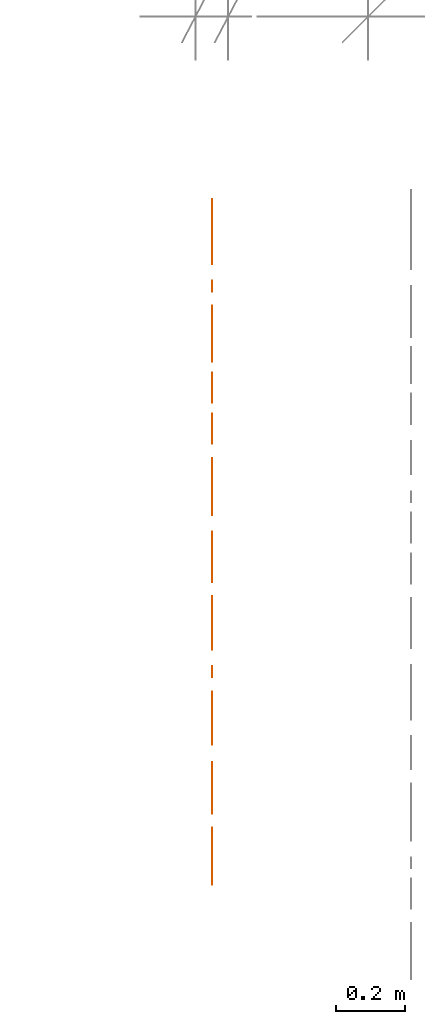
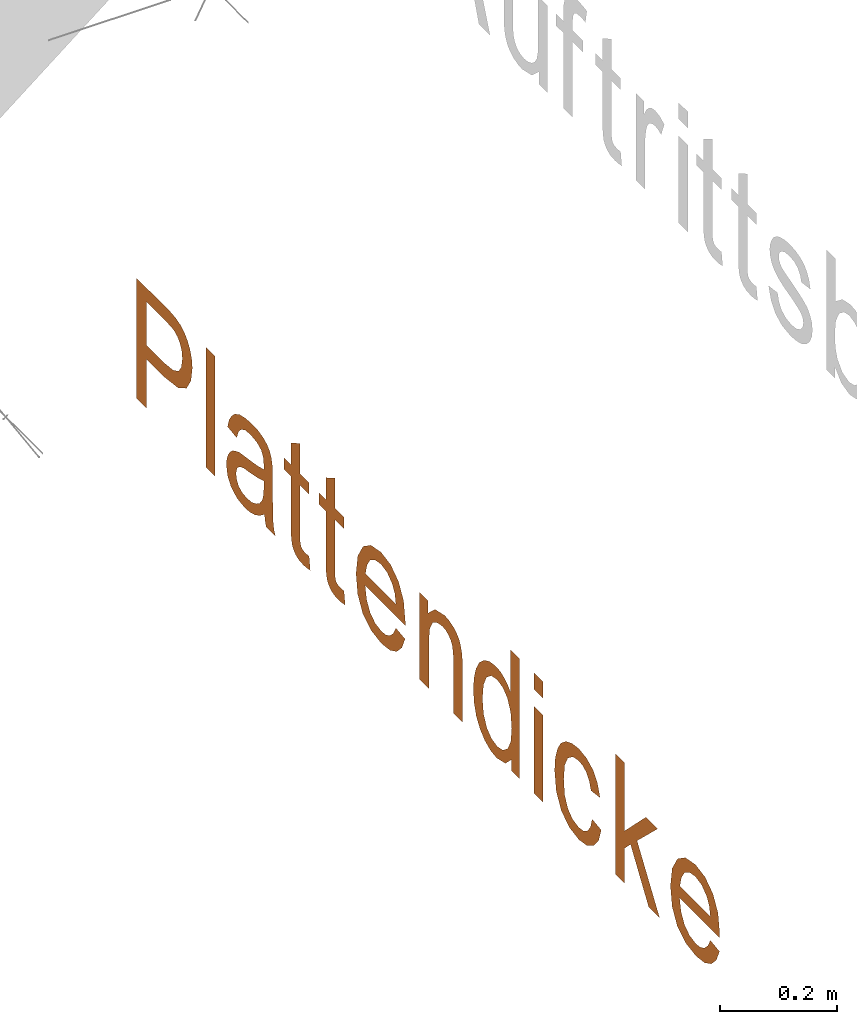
# One storey, part 3 of 5: 1 proxy, 1 element without a shape of its own.
"""IFC4 building model written with IfcOpenShell, lengths in metres."""

from ifc_helpers import new_model, entity, si_unit, converted_unit, derived_unit, frame, origin, origin_with_axes, place, context, subcontext, project, spatial, open_shell, surface_model, source, transform, mapped, element, aggregate, save


model = new_model("IFC4")

# Units and contexts
model_context = context("Model", 3, precision=1e-05, world=origin())
body_context = subcontext(model_context, "Body", "Model", "MODEL_VIEW")
ifc_project = project(units=[si_unit("LENGTHUNIT", "METRE"), si_unit("AREAUNIT", "SQUARE_METRE"), si_unit("VOLUMEUNIT", "CUBIC_METRE"), si_unit("MASSUNIT", "GRAM", prefix="KILO"), converted_unit("PLANEANGLEUNIT", "DEGREE", entity("IfcPlaneAngleMeasure", 0.0174532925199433), si_unit("PLANEANGLEUNIT", "RADIAN"), dimensions=[0, 0, 0, 0, 0, 0, 0]), derived_unit("THERMALTRANSMITTANCEUNIT", [(si_unit("POWERUNIT", "WATT"), 1), (si_unit("THERMODYNAMICTEMPERATUREUNIT", "KELVIN"), -1), (si_unit("LENGTHUNIT", "METRE"), -2)]), derived_unit("VOLUMETRICFLOWRATEUNIT", [(si_unit("LENGTHUNIT", "METRE"), 3), (converted_unit("TIMEUNIT", "hour", entity("IfcTimeMeasure", 3600.0), si_unit("TIMEUNIT", "SECOND"), dimensions=[0, 0, 1, 0, 0, 0, 0]), -1), (si_unit("LENGTHUNIT", "METRE"), -1)])], contexts=[model_context])

# Site, building, storey
site_placement = place(None, origin())
site = spatial("IfcSite", under=ifc_project, at=site_placement, Name="Liegenschaft", CompositionType="ELEMENT")
building_placement = place(site_placement, origin())
building = spatial("IfcBuilding", under=site, at=building_placement, Name="Gebäude", CompositionType="ELEMENT")
storey_placement = place(building_placement, origin())
storey = spatial("IfcBuildingStorey", under=building, at=storey_placement, Name="Geschoss 02", CompositionType="ELEMENT", Elevation=0.0)

# Assembly, proxy
assembly_placement = place(storey_placement, origin())
assembly = element("IfcElementAssembly", 1, at=assembly_placement, inside=storey, Name="SpatialDim_Group", PredefinedType="NOTDEFINED")
shared_shape = source(origin_with_axes(), body_context, "Body", "SurfaceModel", [
    surface_model("IfcShellBasedSurfaceModel", [(0.298675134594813, 1.988, 0.0), (0.298675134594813, 1.955, 0.0), (0.400675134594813, 1.955, 0.0), (0.400675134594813, 1.891, 0.0), (0.406425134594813, 1.845875, 0.0), (0.422675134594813, 1.818, 0.0), (0.447425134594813, 1.80275, 0.0), (0.476675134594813, 1.798, 0.0), (0.494425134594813, 1.800125, 0.0), (0.510675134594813, 1.806, 0.0), (0.524175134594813, 1.814875, 0.0), (0.534675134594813, 1.826, 0.0), (0.542175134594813, 1.8395, 0.0), (0.546675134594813, 1.856, 0.0), (0.548425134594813, 1.872375, 0.0), (0.548675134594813, 1.894, 0.0), (0.548675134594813, 1.988, 0.0), (0.432675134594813, 1.863875, 0.0), (0.429675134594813, 1.891, 0.0), (0.429675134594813, 1.955, 0.0), (0.519675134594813, 1.955, 0.0), (0.519675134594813, 1.891, 0.0), (0.519050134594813, 1.87225, 0.0), (0.517675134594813, 1.861, 0.0), (0.511675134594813, 1.849, 0.0), (0.502675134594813, 1.84, 0.0), (0.489925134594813, 1.83375, 0.0), (0.475675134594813, 1.832, 0.0), (0.456050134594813, 1.8355, 0.0), (0.441675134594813, 1.845, 0.0)], [open_shell([[[0, 1, 2, 3, 4, 5, 6, 7, 8, 9, 10, 11, 12, 13, 14, 15, 16], [17, 18, 19, 20, 21, 22, 23, 24, 25, 26, 27, 28, 29]]], orient=[[False, False]])]),
    surface_model("IfcShellBasedSurfaceModel", [(0.298675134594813, 1.751, 0.0), (0.298675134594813, 1.72, 0.0), (0.548675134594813, 1.72, 0.0), (0.548675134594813, 1.751, 0.0)], [open_shell([[[0, 1, 2, 3]]], orient=[[False]])]),
    surface_model("IfcShellBasedSurfaceModel", [(0.309050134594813, 1.54975, 0.0), (0.298675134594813, 1.546, 0.0), (0.298675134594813, 1.515, 0.0), (0.309300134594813, 1.519625, 0.0), (0.320675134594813, 1.522, 0.0), (0.340175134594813, 1.52375, 0.0), (0.374675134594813, 1.524, 0.0), (0.415675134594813, 1.524, 0.0), (0.433050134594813, 1.524625, 0.0), (0.443675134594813, 1.526, 0.0), (0.455675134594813, 1.52975, 0.0), (0.464675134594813, 1.535, 0.0), (0.472425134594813, 1.544125, 0.0), (0.478675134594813, 1.557, 0.0), (0.482675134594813, 1.574125, 0.0), (0.483675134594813, 1.595, 0.0), (0.482175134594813, 1.6175, 0.0), (0.477675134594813, 1.637, 0.0), (0.469300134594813, 1.65275, 0.0), (0.458675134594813, 1.664, 0.0), (0.444675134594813, 1.672875, 0.0), (0.427675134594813, 1.678, 0.0), (0.423675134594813, 1.647, 0.0), (0.440925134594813, 1.640125, 0.0), (0.450675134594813, 1.631, 0.0), (0.456925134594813, 1.617625, 0.0), (0.458675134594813, 1.599, 0.0), (0.455925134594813, 1.578, 0.0), (0.448675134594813, 1.563, 0.0), (0.437425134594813, 1.55625, 0.0), (0.421675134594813, 1.554, 0.0), (0.418425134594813, 1.554, 0.0), (0.413675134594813, 1.554, 0.0), (0.407800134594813, 1.577125, 0.0), (0.402675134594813, 1.61, 0.0), (0.400300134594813, 1.62575, 0.0), (0.398675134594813, 1.637, 0.0), (0.394050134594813, 1.649625, 0.0), (0.388675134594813, 1.66, 0.0), (0.380425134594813, 1.669125, 0.0), (0.370675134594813, 1.676, 0.0), (0.358675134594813, 1.6805, 0.0), (0.346675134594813, 1.682, 0.0), (0.325550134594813, 1.67775, 0.0), (0.309675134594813, 1.666, 0.0), (0.298425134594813, 1.6455, 0.0), (0.294675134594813, 1.619, 0.0), (0.296175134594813, 1.60125, 0.0), (0.300675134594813, 1.585, 0.0), (0.308925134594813, 1.5685, 0.0), (0.321675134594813, 1.552, 0.0), (0.383675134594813, 1.575, 0.0), (0.389675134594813, 1.554, 0.0), (0.378675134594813, 1.554, 0.0), (0.360175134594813, 1.555375, 0.0), (0.347675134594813, 1.559, 0.0), (0.334925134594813, 1.568, 0.0), (0.326675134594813, 1.58, 0.0), (0.320425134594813, 1.59525, 0.0), (0.318675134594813, 1.612, 0.0), (0.320800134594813, 1.62825, 0.0), (0.326675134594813, 1.64, 0.0), (0.336425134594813, 1.64675, 0.0), (0.347675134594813, 1.649, 0.0), (0.355425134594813, 1.64775, 0.0), (0.361675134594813, 1.645, 0.0), (0.367800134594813, 1.638875, 0.0), (0.371675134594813, 1.632, 0.0), (0.375425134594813, 1.62075, 0.0), (0.377675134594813, 1.605, 0.0)], [open_shell([[[0, 1, 2, 3, 4, 5, 6, 7, 8, 9, 10, 11, 12, 13, 14, 15, 16, 17, 18, 19, 20, 21, 22, 23, 24, 25, 26, 27, 28, 29, 30, 31, 32, 33, 34, 35, 36, 37, 38, 39, 40, 41, 42, 43, 44, 45, 46, 47, 48, 49, 50], [51, 52, 53, 54, 55, 56, 57, 58, 59, 60, 61, 62, 63, 64, 65, 66, 67, 68, 69]]], orient=[[False, False]])]),
    surface_model("IfcShellBasedSurfaceModel", [(0.326675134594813, 1.4, 0.0), (0.325800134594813, 1.40775, 0.0), (0.325675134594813, 1.414, 0.0), (0.326300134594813, 1.41975, 0.0), (0.327675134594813, 1.424, 0.0), (0.330675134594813, 1.427625, 0.0), (0.333675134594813, 1.429, 0.0), (0.340300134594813, 1.43075, 0.0), (0.350675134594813, 1.431, 0.0), (0.455675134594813, 1.431, 0.0), (0.455675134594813, 1.4, 0.0), (0.479675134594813, 1.4, 0.0), (0.479675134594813, 1.431, 0.0), (0.542675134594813, 1.431, 0.0), (0.524675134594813, 1.462, 0.0), (0.479675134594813, 1.462, 0.0), (0.479675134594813, 1.485, 0.0), (0.455675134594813, 1.485, 0.0), (0.455675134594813, 1.462, 0.0), (0.351675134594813, 1.462, 0.0), (0.329175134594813, 1.46075, 0.0), (0.315675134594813, 1.458, 0.0), (0.307925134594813, 1.452625, 0.0), (0.301675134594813, 1.445, 0.0), (0.297675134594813, 1.433875, 0.0), (0.296675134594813, 1.419, 0.0), (0.297425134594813, 1.407875, 0.0), (0.299675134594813, 1.396, 0.0)], [open_shell([[[0, 1, 2, 3, 4, 5, 6, 7, 8, 9, 10, 11, 12, 13, 14, 15, 16, 17, 18, 19, 20, 21, 22, 23, 24, 25, 26, 27]]], orient=[[False]])]),
    surface_model("IfcShellBasedSurfaceModel", [(0.326675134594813, 1.281, 0.0), (0.325800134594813, 1.28875, 0.0), (0.325675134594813, 1.295, 0.0), (0.326300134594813, 1.30075, 0.0), (0.327675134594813, 1.305, 0.0), (0.330675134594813, 1.308625, 0.0), (0.333675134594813, 1.31, 0.0), (0.340300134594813, 1.31175, 0.0), (0.350675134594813, 1.312, 0.0), (0.455675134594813, 1.312, 0.0), (0.455675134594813, 1.281, 0.0), (0.479675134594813, 1.281, 0.0), (0.479675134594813, 1.312, 0.0), (0.542675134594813, 1.312, 0.0), (0.524675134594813, 1.343, 0.0), (0.479675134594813, 1.343, 0.0), (0.479675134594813, 1.366, 0.0), (0.455675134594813, 1.366, 0.0), (0.455675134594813, 1.343, 0.0), (0.351675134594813, 1.343, 0.0), (0.329175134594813, 1.34175, 0.0), (0.315675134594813, 1.339, 0.0), (0.307925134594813, 1.333625, 0.0), (0.301675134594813, 1.326, 0.0), (0.297675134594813, 1.314875, 0.0), (0.296675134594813, 1.3, 0.0), (0.297425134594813, 1.288875, 0.0), (0.299675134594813, 1.277, 0.0)], [open_shell([[[0, 1, 2, 3, 4, 5, 6, 7, 8, 9, 10, 11, 12, 13, 14, 15, 16, 17, 18, 19, 20, 21, 22, 23, 24, 25, 26, 27]]], orient=[[False]])]),
    surface_model("IfcShellBasedSurfaceModel", [(0.356675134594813, 1.104, 0.0), (0.340050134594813, 1.112875, 0.0), (0.328675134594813, 1.124, 0.0), (0.321925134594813, 1.137375, 0.0), (0.319675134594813, 1.153, 0.0), (0.323925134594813, 1.17475, 0.0), (0.335675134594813, 1.192, 0.0), (0.355300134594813, 1.203875, 0.0), (0.381675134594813, 1.209, 0.0), (0.381675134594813, 1.072, 0.0), (0.386425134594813, 1.072, 0.0), (0.389675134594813, 1.072, 0.0), (0.429425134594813, 1.077875, 0.0), (0.458675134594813, 1.095, 0.0), (0.477550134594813, 1.122, 0.0), (0.483675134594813, 1.155, 0.0), (0.477175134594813, 1.189625, 0.0), (0.458675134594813, 1.216, 0.0), (0.428050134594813, 1.234, 0.0), (0.387675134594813, 1.24, 0.0), (0.347925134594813, 1.234125, 0.0), (0.318675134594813, 1.217, 0.0), (0.300675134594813, 1.18875, 0.0), (0.294675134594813, 1.153, 0.0), (0.298425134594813, 1.123625, 0.0), (0.309675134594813, 1.101, 0.0), (0.328175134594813, 1.083625, 0.0), (0.352675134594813, 1.073, 0.0), (0.426300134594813, 1.10775, 0.0), (0.406675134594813, 1.104, 0.0), (0.406675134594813, 1.208, 0.0), (0.428300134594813, 1.202625, 0.0), (0.444675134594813, 1.192, 0.0), (0.455425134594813, 1.175, 0.0), (0.458675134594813, 1.155, 0.0), (0.454175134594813, 1.13325, 0.0), (0.440675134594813, 1.116, 0.0)], [open_shell([[[0, 1, 2, 3, 4, 5, 6, 7, 8, 9, 10, 11, 12, 13, 14, 15, 16, 17, 18, 19, 20, 21, 22, 23, 24, 25, 26, 27], [28, 29, 30, 31, 32, 33, 34, 35, 36]]], orient=[[False, False]])]),
    surface_model("IfcShellBasedSurfaceModel", [(0.298675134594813, 1.023, 0.0), (0.298675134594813, 0.992, 0.0), (0.397675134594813, 0.992, 0.0), (0.426800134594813, 0.988375, 0.0), (0.444675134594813, 0.978, 0.0), (0.453675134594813, 0.96225, 0.0), (0.456675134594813, 0.945, 0.0), (0.455175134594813, 0.93375, 0.0), (0.450675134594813, 0.924, 0.0), (0.444425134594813, 0.9165, 0.0), (0.436675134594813, 0.912, 0.0), (0.424550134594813, 0.908875, 0.0), (0.408675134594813, 0.908, 0.0), (0.298675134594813, 0.908, 0.0), (0.298675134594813, 0.877, 0.0), (0.409675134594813, 0.877, 0.0), (0.428425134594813, 0.877625, 0.0), (0.439675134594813, 0.879, 0.0), (0.452300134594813, 0.88275, 0.0), (0.462675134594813, 0.888, 0.0), (0.470925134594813, 0.896875, 0.0), (0.477675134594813, 0.908, 0.0), (0.482175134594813, 0.923, 0.0), (0.483675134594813, 0.938, 0.0), (0.476175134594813, 0.971, 0.0), (0.453675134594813, 0.995, 0.0), (0.479675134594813, 0.995, 0.0), (0.479675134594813, 1.023, 0.0)], [open_shell([[[0, 1, 2, 3, 4, 5, 6, 7, 8, 9, 10, 11, 12, 13, 14, 15, 16, 17, 18, 19, 20, 21, 22, 23, 24, 25, 26, 27]]], orient=[[False]])]),
    surface_model("IfcShellBasedSurfaceModel", [(0.298675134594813, 0.71, 0.0), (0.298675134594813, 0.682, 0.0), (0.548675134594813, 0.682, 0.0), (0.548675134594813, 0.713, 0.0), (0.459675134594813, 0.713, 0.0), (0.469300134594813, 0.72275, 0.0), (0.476675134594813, 0.734, 0.0), (0.482050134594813, 0.748125, 0.0), (0.483675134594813, 0.763, 0.0), (0.480675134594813, 0.785, 0.0), (0.471675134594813, 0.804, 0.0), (0.457300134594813, 0.81975, 0.0), (0.437675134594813, 0.831, 0.0), (0.414300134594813, 0.83775, 0.0), (0.388675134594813, 0.84, 0.0), (0.362675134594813, 0.83725, 0.0), (0.339675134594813, 0.83, 0.0), (0.320925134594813, 0.817375, 0.0), (0.306675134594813, 0.801, 0.0), (0.297675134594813, 0.78175, 0.0), (0.294675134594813, 0.761, 0.0), (0.301425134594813, 0.731, 0.0), (0.321675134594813, 0.71, 0.0), (0.358925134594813, 0.80525, 0.0), (0.388675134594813, 0.809, 0.0), (0.420050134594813, 0.805375, 0.0), (0.441675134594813, 0.795, 0.0), (0.454675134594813, 0.779, 0.0), (0.458675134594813, 0.76, 0.0), (0.454300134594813, 0.73975, 0.0), (0.441675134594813, 0.724, 0.0), (0.418675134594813, 0.71275, 0.0), (0.386675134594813, 0.709, 0.0), (0.356800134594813, 0.712625, 0.0), (0.336675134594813, 0.723, 0.0), (0.323675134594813, 0.739375, 0.0), (0.319675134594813, 0.758, 0.0), (0.324050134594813, 0.7775, 0.0), (0.336675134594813, 0.794, 0.0)], [open_shell([[[0, 1, 2, 3, 4, 5, 6, 7, 8, 9, 10, 11, 12, 13, 14, 15, 16, 17, 18, 19, 20, 21, 22], [23, 24, 25, 26, 27, 28, 29, 30, 31, 32, 33, 34, 35, 36, 37, 38]]], orient=[[False, False]])]),
    surface_model("IfcShellBasedSurfaceModel", [(0.298675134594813, 0.633, 0.0), (0.298675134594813, 0.602, 0.0), (0.479675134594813, 0.602, 0.0), (0.479675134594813, 0.633, 0.0), (0.514675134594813, 0.633, 0.0), (0.514675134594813, 0.602, 0.0), (0.548675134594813, 0.602, 0.0), (0.548675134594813, 0.633, 0.0)], [open_shell([[[0, 1, 2, 3]], [[4, 5, 6, 7]]], orient=[[False], [False]])]),
    surface_model("IfcShellBasedSurfaceModel", [(0.364675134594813, 0.435, 0.0), (0.344300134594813, 0.44075, 0.0), (0.330675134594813, 0.451, 0.0), (0.322175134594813, 0.4645, 0.0), (0.319675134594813, 0.481, 0.0), (0.324050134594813, 0.502125, 0.0), (0.336675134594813, 0.518, 0.0), (0.358300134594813, 0.52875, 0.0), (0.389675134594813, 0.532, 0.0), (0.420925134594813, 0.528375, 0.0), (0.441675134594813, 0.518, 0.0), (0.454675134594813, 0.500875, 0.0), (0.458675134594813, 0.48, 0.0), (0.456425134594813, 0.465875, 0.0), (0.449675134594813, 0.454, 0.0), (0.437550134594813, 0.44425, 0.0), (0.421675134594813, 0.439, 0.0), (0.425675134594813, 0.408, 0.0), (0.450550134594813, 0.417, 0.0), (0.468675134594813, 0.432, 0.0), (0.479925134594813, 0.45375, 0.0), (0.483675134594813, 0.48, 0.0), (0.480800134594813, 0.503125, 0.0), (0.472675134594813, 0.524, 0.0), (0.458425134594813, 0.5415, 0.0), (0.439675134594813, 0.553, 0.0), (0.415675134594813, 0.560625, 0.0), (0.388675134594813, 0.563, 0.0), (0.348425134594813, 0.557125, 0.0), (0.318675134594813, 0.54, 0.0), (0.300675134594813, 0.513, 0.0), (0.294675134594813, 0.48, 0.0), (0.299175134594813, 0.452375, 0.0), (0.312675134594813, 0.43, 0.0), (0.333675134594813, 0.412875, 0.0), (0.360675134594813, 0.404, 0.0)], [open_shell([[[0, 1, 2, 3, 4, 5, 6, 7, 8, 9, 10, 11, 12, 13, 14, 15, 16, 17, 18, 19, 20, 21, 22, 23, 24, 25, 26, 27, 28, 29, 30, 31, 32, 33, 34, 35]]], orient=[[False]])]),
    surface_model("IfcShellBasedSurfaceModel", [(0.298675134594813, 0.356, 0.0), (0.298675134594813, 0.325, 0.0), (0.370675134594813, 0.325, 0.0), (0.391675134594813, 0.304, 0.0), (0.298675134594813, 0.242, 0.0), (0.298675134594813, 0.205, 0.0), (0.412675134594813, 0.282, 0.0), (0.479675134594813, 0.212, 0.0), (0.479675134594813, 0.252, 0.0), (0.406675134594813, 0.325, 0.0), (0.548675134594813, 0.325, 0.0), (0.548675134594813, 0.356, 0.0)], [open_shell([[[0, 1, 2, 3, 4, 5, 6, 7, 8, 9, 10, 11]]], orient=[[False]])]),
    surface_model("IfcShellBasedSurfaceModel", [(0.356675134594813, 0.032, 0.0), (0.340050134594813, 0.040875, 0.0), (0.328675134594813, 0.052, 0.0), (0.321925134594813, 0.065375, 0.0), (0.319675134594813, 0.081, 0.0), (0.323925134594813, 0.10275, 0.0), (0.335675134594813, 0.12, 0.0), (0.355300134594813, 0.131875, 0.0), (0.381675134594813, 0.137, 0.0), (0.381675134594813, 0.0, 0.0), (0.386425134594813, 0.0, 0.0), (0.389675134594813, 0.0, 0.0), (0.429425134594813, 0.005875, 0.0), (0.458675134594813, 0.023, 0.0), (0.477550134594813, 0.05, 0.0), (0.483675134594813, 0.083, 0.0), (0.477175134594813, 0.117625, 0.0), (0.458675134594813, 0.144, 0.0), (0.428050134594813, 0.162, 0.0), (0.387675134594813, 0.168, 0.0), (0.347925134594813, 0.162125, 0.0), (0.318675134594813, 0.145, 0.0), (0.300675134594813, 0.11675, 0.0), (0.294675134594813, 0.081, 0.0), (0.298425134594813, 0.051625, 0.0), (0.309675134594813, 0.029, 0.0), (0.328175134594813, 0.011625, 0.0), (0.352675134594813, 0.001, 0.0), (0.426300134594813, 0.03575, 0.0), (0.406675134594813, 0.032, 0.0), (0.406675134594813, 0.136, 0.0), (0.428300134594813, 0.130625, 0.0), (0.444675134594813, 0.12, 0.0), (0.455425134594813, 0.103, 0.0), (0.458675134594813, 0.083, 0.0), (0.454175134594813, 0.06125, 0.0), (0.440675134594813, 0.044, 0.0)], [open_shell([[[0, 1, 2, 3, 4, 5, 6, 7, 8, 9, 10, 11, 12, 13, 14, 15, 16, 17, 18, 19, 20, 21, 22, 23, 24, 25, 26, 27], [28, 29, 30, 31, 32, 33, 34, 35, 36]]], orient=[[False, False]])]),
])
proxy_placement = place(assembly_placement, frame((121.364316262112, -4.07132871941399, 0.922812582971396), z_axis=(-1.0, 0.0, 1.22464679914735e-16), x_axis=(1.22464679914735e-16, 0.0, 1.0)))
proxy = element("IfcBuildingElementProxy", 2, at=proxy_placement, Name="macro", context=body_context, shape_type="MappedRepresentation", body=[
    mapped(shared_shape, transform((0.0, 0.0, 0.0), x_axis=(1.0, 0.0, 0.0), y_axis=(0.0, 1.0, 0.0), z_axis=(0.0, 0.0, 1.0), scale=1.0)),
])
aggregate(assembly, [proxy])

save(model, "model.ifc")
